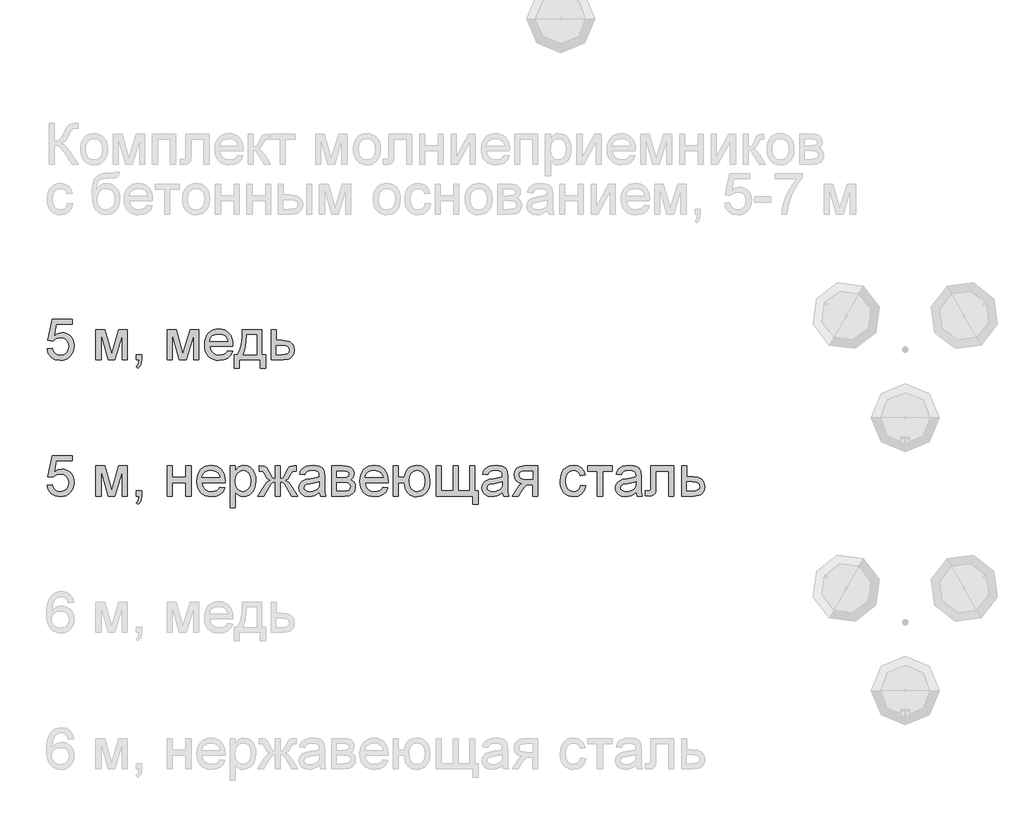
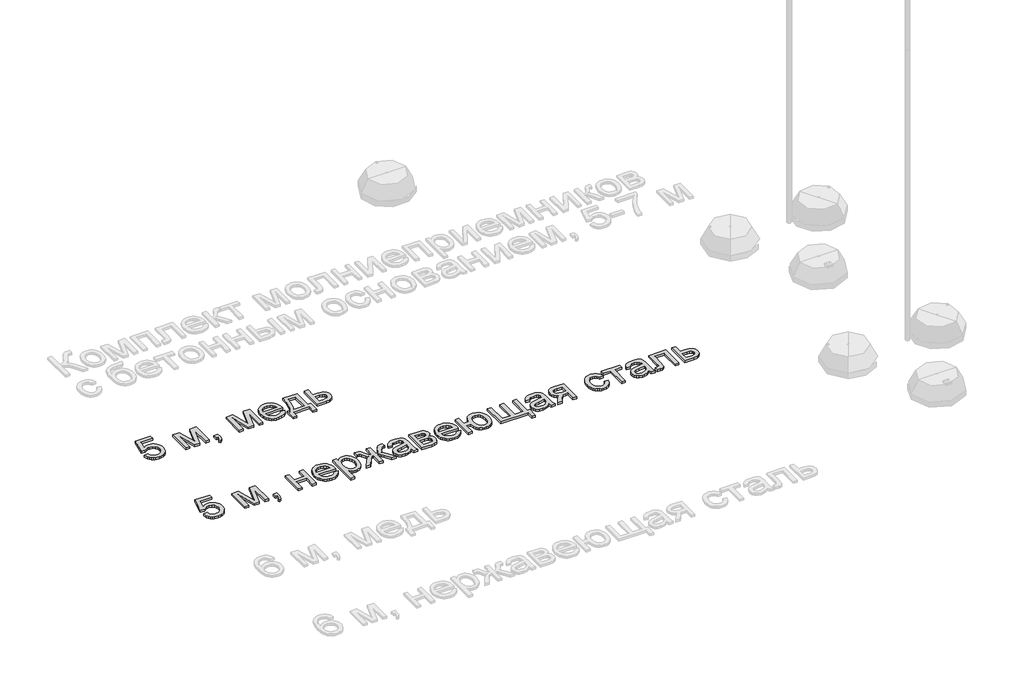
# One storey, part 56 of 124: 2 proxies.
"""IFC4 building model written with IfcOpenShell, lengths in millimetres."""

from ifc_helpers import new_model, si_unit, origin, origin_with_axes, place, context, project, spatial, polyline, outline, extrude, element, save

model = new_model("IFC4")

# Units and contexts
model_context = context("Model", 3, world=origin())
ifc_project = project(units=[si_unit("LENGTHUNIT", "METRE", prefix="MILLI")], contexts=[model_context])

# Site, building, storey
site = spatial("IfcSite", under=ifc_project)
building = spatial("IfcBuilding", under=site)
storey = spatial("IfcBuildingStorey", under=building, Name="Этаж 01", Elevation=0.0)

# Proxies
placement = place(None, origin())
element("IfcBuildingElementProxy", 1, Name="300", ObjectType="300", at=placement, inside=storey, context=model_context, shape_type="SweptSolid", body=[
    extrude(outline(polyline([(10385.6953991, -61427.4094666), (10423.3665154, -61422.7005771), (10430.2826969, -61445.3161227), (10442.3492263, -61461.5121276), (10459.5109214, -61471.2518034), (10481.7125998, -61474.498362), (10508.7151383, -61469.9826105), (10528.948648, -61456.435356), (10541.5853945, -61435.4200971), (10545.7976434, -61408.5003321), (10541.852109, -61383.1532626), (10530.0155058, -61363.7658815), (10510.1958633, -61351.4602287), (10482.301211, -61347.3583445), (10464.0266729, -61348.9954193), (10449.2286196, -61353.906644), (10428.0754049, -61370.9027922), (10390.4042886, -61366.1939026), (10423.3665154, -61210.8005479), (10569.3420911, -61210.8005479), (10569.3420911, -61248.4716642), (10453.8271446, -61248.4716642), (10437.7139132, -61331.4658423), (10464.6244811, -61315.1318817), (10492.8226361, -61309.6872282), (10511.1684513, -61311.3748868), (10528.019746, -61316.4378628), (10543.37652, -61324.876156), (10557.2387734, -61336.6897666), (10568.7143924, -61351.1567261), (10576.9112631, -61367.555066), (10581.8293855, -61385.8847864), (10583.4687597, -61406.1458873), (10577.5642537, -61443.8170036), (10570.1836211, -61460.6108167), (10559.8507356, -61476.0434664), (10544.1973567, -61491.8485966), (10525.9320156, -61503.1379753), (10505.0547124, -61509.9116026), (10481.565447, -61512.1694783), (10444.5657154, -61506.3661398), (10428.8870446, -61499.1119667), (10415.0891705, -61488.9561244), (10403.608953, -61476.4044506), (10394.8832519, -61461.962783), (10385.6953991, -61427.4094666)])), origin_with_axes(), (0.0, 0.0, 1.0), 20.0),
    extrude(outline(polyline([(10743.571004, -61286.1427805), (10808.3918115, -61286.1427805), (10858.3501865, -61463.3147493), (10912.2081106, -61286.1427805), (10974.3065914, -61286.1427805), (10974.3065914, -61507.4605888), (10936.6354751, -61507.4605888), (10936.6354751, -61329.2585503), (10882.4832454, -61507.4605888), (10833.0399052, -61507.4605888), (10781.2421203, -61320.723688), (10781.2421203, -61507.4605888), (10743.571004, -61507.4605888), (10743.571004, -61286.1427805)])), origin_with_axes(), (0.0, 0.0, 1.0), 20.0),
    extrude(outline(polyline([(11040.2310449, -61507.4605888), (11040.2310449, -61469.7894725), (11077.9021612, -61469.7894725), (11077.9021612, -61507.4605888), (11076.209904, -61529.0092766), (11071.1331325, -61545.9778337), (11062.377541, -61558.9916592), (11049.648824, -61568.6761528), (11040.2310449, -61554.5494842), (11048.3980252, -61547.7252731), (11054.0634079, -61538.2891), (11058.9930267, -61507.4605888), (11040.2310449, -61507.4605888)])), origin_with_axes(), (0.0, 0.0, 1.0), 20.0),
    extrude(outline(polyline([(11266.2577427, -61286.1427805), (11331.0785503, -61286.1427805), (11381.0369252, -61463.3147493), (11434.8948493, -61286.1427805), (11496.9933301, -61286.1427805), (11496.9933301, -61507.4605888), (11459.3222138, -61507.4605888), (11459.3222138, -61329.2585503), (11405.1699841, -61507.4605888), (11355.726644, -61507.4605888), (11303.928859, -61320.723688), (11303.928859, -61507.4605888), (11266.2577427, -61507.4605888), (11266.2577427, -61286.1427805)])), origin_with_axes(), (0.0, 0.0, 1.0), 20.0),
    extrude(outline(polyline([(11708.4519009, -61441.5361352), (11745.3872533, -61446.2450248), (11732.0791221, -61474.0752977), (11710.8431339, -61494.8790245), (11682.1575353, -61507.8468649), (11646.5005729, -61512.1694783), (11623.1262707, -61510.3047764), (11602.2995512, -61504.7106709), (11584.0204146, -61495.3871615), (11568.2888608, -61482.3342485), (11555.6383187, -61465.9152152), (11546.6022172, -61446.4933451), (11541.1805563, -61424.0686383), (11539.373336, -61398.6410946), (11541.1989504, -61372.3513275), (11546.6757936, -61349.1793603), (11555.8038656, -61329.1251931), (11568.5831664, -61312.1888257), (11584.2733335, -61298.7335418), (11602.1340043, -61289.1226246), (11622.165179, -61283.3560744), (11644.3668574, -61281.4338909), (11665.8534652, -61283.3514758), (11685.2845323, -61289.1042305), (11702.6600588, -61298.692155), (11717.9800446, -61312.1152493), (11730.4857332, -61329.0148285), (11739.4183679, -61349.0322075), (11744.7779487, -61372.1673865), (11746.5644756, -61398.4203654), (11746.3437464, -61408.5739085), (11577.0444523, -61408.5739085), (11583.5651606, -61436.7720634), (11598.7127018, -61457.5022138), (11620.5740893, -61470.249325), (11647.2363369, -61474.498362), (11667.2859057, -61472.5301933), (11684.1716893, -61466.6256873), (11697.8936877, -61456.4169619), (11708.4519009, -61441.5361352)]), holes=[polyline([(11577.0444523, -61370.9027922), (11708.8933593, -61370.9027922), (11703.7981937, -61351.0003762), (11693.8101975, -61336.763343), (11671.8476424, -61323.5195912), (11644.2197046, -61319.1050072), (11618.8266499, -61322.6274773), (11597.829785, -61333.1948877), (11583.2340668, -61349.666804), (11577.0444523, -61370.9027922)])]), origin_with_axes(), (0.0, 0.0, 1.0), 20.0),
    extrude(outline(polyline([(11817.1978187, -61286.1427805), (11958.4645049, -61286.1427805), (11958.4645049, -61469.7894725), (11986.7178421, -61469.7894725), (11986.7178421, -61568.6761528), (11949.0467258, -61568.6761528), (11949.0467258, -61507.4605888), (11793.653371, -61507.4605888), (11793.653371, -61568.6761528), (11755.9822547, -61568.6761528), (11755.9822547, -61469.7894725), (11779.5267024, -61469.7894725), (11796.6424122, -61438.8597937), (11808.6261682, -61397.9421188), (11815.4779704, -61347.0364477), (11817.1978187, -61286.1427805)]), holes=[polyline([(11850.1600455, -61323.8138968), (11847.0698367, -61369.9371019), (11841.3308776, -61409.6407663), (11832.9431681, -61442.9248898), (11821.9067082, -61469.7894725), (11920.7933886, -61469.7894725), (11920.7933886, -61323.8138968), (11850.1600455, -61323.8138968)])]), origin_with_axes(), (0.0, 0.0, 1.0), 20.0),
    extrude(outline(polyline([(12029.0978479, -61286.1427805), (12066.7689642, -61286.1427805), (12066.7689642, -61366.1939026), (12110.1790397, -61366.1939026), (12147.8133678, -61370.9119892), (12162.9609089, -61376.8095974), (12175.6620348, -61385.066249), (12185.7052133, -61395.3968353), (12192.8789122, -61407.5162477), (12198.6178713, -61437.1215513), (12193.7342378, -61464.0781045), (12179.0833374, -61486.8224088), (12167.8514402, -61495.8516126), (12153.6902826, -61502.3010438), (12116.5801864, -61507.4605888), (12029.0978479, -61507.4605888), (12029.0978479, -61286.1427805)]), holes=[polyline([(12066.7689642, -61469.7894725), (12101.938483, -61469.7894725), (12129.22613, -61467.8121067), (12147.3719094, -61461.8800096), (12157.5530436, -61451.7540577), (12160.946755, -61437.1951277), (12158.4359604, -61424.889475), (12150.9035765, -61414.018562), (12134.762754, -61406.4034047), (12106.4266433, -61403.8650189), (12066.7689642, -61403.8650189), (12066.7689642, -61469.7894725)])]), origin_with_axes(), (0.0, 0.0, 1.0), 20.0),
])
element("IfcBuildingElementProxy", 2, Name="300", ObjectType="300", at=placement, inside=storey, context=model_context, shape_type="SweptSolid", body=[
    extrude(outline(polyline([(10385.6953991, -62427.4094666), (10423.3665154, -62422.7005771), (10430.2826969, -62445.3161227), (10442.3492263, -62461.5121276), (10459.5109214, -62471.2518034), (10481.7125998, -62474.498362), (10508.7151383, -62469.9826105), (10528.948648, -62456.435356), (10541.5853945, -62435.4200971), (10545.7976434, -62408.5003321), (10541.852109, -62383.1532626), (10530.0155058, -62363.7658815), (10510.1958633, -62351.4602287), (10482.301211, -62347.3583445), (10464.0266729, -62348.9954193), (10449.2286196, -62353.906644), (10428.0754049, -62370.9027922), (10390.4042886, -62366.1939026), (10423.3665154, -62210.8005479), (10569.3420911, -62210.8005479), (10569.3420911, -62248.4716642), (10453.8271446, -62248.4716642), (10437.7139132, -62331.4658423), (10464.6244811, -62315.1318817), (10492.8226361, -62309.6872282), (10511.1684513, -62311.3748868), (10528.019746, -62316.4378628), (10543.37652, -62324.876156), (10557.2387734, -62336.6897666), (10568.7143924, -62351.1567261), (10576.9112631, -62367.555066), (10581.8293855, -62385.8847864), (10583.4687597, -62406.1458873), (10577.5642537, -62443.8170036), (10570.1836211, -62460.6108167), (10559.8507356, -62476.0434664), (10544.1973567, -62491.8485966), (10525.9320156, -62503.1379753), (10505.0547124, -62509.9116026), (10481.565447, -62512.1694783), (10444.5657154, -62506.3661398), (10428.8870446, -62499.1119667), (10415.0891705, -62488.9561244), (10403.608953, -62476.4044506), (10394.8832519, -62461.962783), (10385.6953991, -62427.4094666)])), origin_with_axes(), (0.0, 0.0, 1.0), 20.0),
    extrude(outline(polyline([(10743.571004, -62286.1427805), (10808.3918115, -62286.1427805), (10858.3501865, -62463.3147493), (10912.2081106, -62286.1427805), (10974.3065914, -62286.1427805), (10974.3065914, -62507.4605888), (10936.6354751, -62507.4605888), (10936.6354751, -62329.2585503), (10882.4832454, -62507.4605888), (10833.0399052, -62507.4605888), (10781.2421203, -62320.723688), (10781.2421203, -62507.4605888), (10743.571004, -62507.4605888), (10743.571004, -62286.1427805)])), origin_with_axes(), (0.0, 0.0, 1.0), 20.0),
    extrude(outline(polyline([(11040.2310449, -62507.4605888), (11040.2310449, -62469.7894725), (11077.9021612, -62469.7894725), (11077.9021612, -62507.4605888), (11076.209904, -62529.0092766), (11071.1331325, -62545.9778337), (11062.377541, -62558.9916592), (11049.648824, -62568.6761528), (11040.2310449, -62554.5494842), (11048.3980252, -62547.7252731), (11054.0634079, -62538.2891), (11058.9930267, -62507.4605888), (11040.2310449, -62507.4605888)])), origin_with_axes(), (0.0, 0.0, 1.0), 20.0),
    extrude(outline(polyline([(11266.2577427, -62286.1427805), (11303.928859, -62286.1427805), (11303.928859, -62370.9027922), (11402.8155393, -62370.9027922), (11402.8155393, -62286.1427805), (11440.4866556, -62286.1427805), (11440.4866556, -62507.4605888), (11402.8155393, -62507.4605888), (11402.8155393, -62408.5739085), (11303.928859, -62408.5739085), (11303.928859, -62507.4605888), (11266.2577427, -62507.4605888), (11266.2577427, -62286.1427805)])), origin_with_axes(), (0.0, 0.0, 1.0), 20.0),
    extrude(outline(polyline([(11651.9452265, -62441.5361352), (11688.8805788, -62446.2450248), (11675.5724476, -62474.0752977), (11654.3364594, -62494.8790245), (11625.6508609, -62507.8468649), (11589.9938985, -62512.1694783), (11566.6195962, -62510.3047764), (11545.7928768, -62504.7106709), (11527.5137401, -62495.3871615), (11511.7821863, -62482.3342485), (11499.1316442, -62465.9152152), (11490.0955427, -62446.4933451), (11484.6738818, -62424.0686383), (11482.8666615, -62398.6410946), (11484.6922759, -62372.3513275), (11490.1691191, -62349.1793603), (11499.2971911, -62329.1251931), (11512.0764919, -62312.1888257), (11527.766659, -62298.7335418), (11545.6273299, -62289.1226246), (11565.6585045, -62283.3560744), (11587.8601829, -62281.4338909), (11609.3467907, -62283.3514758), (11628.7778578, -62289.1042305), (11646.1533843, -62298.692155), (11661.4733702, -62312.1152493), (11673.9790587, -62329.0148285), (11682.9116934, -62349.0322075), (11688.2712742, -62372.1673865), (11690.0578012, -62398.4203654), (11689.837072, -62408.5739085), (11520.5377778, -62408.5739085), (11527.0584862, -62436.7720634), (11542.2060273, -62457.5022138), (11564.0674149, -62470.249325), (11590.7296625, -62474.498362), (11610.7792312, -62472.5301933), (11627.6650148, -62466.6256873), (11641.3870132, -62456.4169619), (11651.9452265, -62441.5361352)]), holes=[polyline([(11520.5377778, -62370.9027922), (11652.3866849, -62370.9027922), (11647.2915192, -62351.0003762), (11637.3035231, -62336.763343), (11615.340968, -62323.5195912), (11587.7130301, -62319.1050072), (11562.3199754, -62322.6274773), (11541.3231105, -62333.1948877), (11526.7273924, -62349.666804), (11520.5377778, -62370.9027922)])]), origin_with_axes(), (0.0, 0.0, 1.0), 20.0),
    extrude(outline(polyline([(11727.7289175, -62592.2206005), (11727.7289175, -62286.1427805), (11765.4000338, -62286.1427805), (11765.4000338, -62323.0781328), (11777.6872924, -62304.858777), (11791.446079, -62291.8449514), (11807.485734, -62284.036656), (11826.6155978, -62281.4338909), (11852.091426, -62285.0759227), (11874.3666808, -62296.0020179), (11892.5032631, -62313.5499891), (11905.563074, -62337.0576486), (11913.4541427, -62364.8143451), (11916.084499, -62395.1094274), (11913.1138519, -62427.3266932), (11904.2019106, -62456.1410504), (11889.6337836, -62480.0901683), (11869.6945794, -62497.7117159), (11846.4720285, -62508.5550377), (11822.053861, -62512.1694783), (11804.7358161, -62509.7506542), (11789.2755753, -62502.4941818), (11776.0410205, -62491.5404954), (11765.4000338, -62478.0300292), (11765.4000338, -62592.2206005), (11727.7289175, -62592.2206005)]), holes=[polyline([(11765.4000338, -62398.5675182), (11769.4743269, -62432.3390854), (11781.6972062, -62455.9571094), (11799.732621, -62469.8630489), (11821.2445207, -62474.498362), (11843.1059082, -62469.697502), (11861.6011755, -62455.2949219), (11874.2103309, -62430.8123751), (11878.4133827, -62395.771615), (11874.3114985, -62362.1839889), (11862.0058457, -62338.234871), (11843.9980221, -62323.8874732), (11822.789625, -62319.1050072), (11801.4984546, -62324.1909758), (11782.8008522, -62339.4488816), (11769.7502384, -62364.4004779), (11765.4000338, -62398.5675182)])]), origin_with_axes(), (0.0, 0.0, 1.0), 20.0),
    extrude(outline(polyline([(12095.0223015, -62286.1427805), (12095.0223015, -62380.3205712), (12108.3120385, -62378.3799937), (12116.9848566, -62372.5582611), (12137.7701893, -62332.2751827), (12150.7380296, -62307.1672365), (12162.5654358, -62293.6475732), (12176.9312277, -62288.0189786), (12197.8085309, -62286.1427805), (12212.7445399, -62286.1427805), (12212.7445399, -62324.034626), (12202.3702677, -62323.8138968), (12182.9460983, -62327.7134459), (12169.4816173, -62352.1408104), (12153.8466325, -62378.9226197), (12131.5161954, -62392.5342535), (12143.9092201, -62397.8363527), (12156.145895, -62407.194351), (12180.1501952, -62438.0780445), (12222.162319, -62507.4605888), (12178.9729728, -62507.4605888), (12137.6230365, -62439.0345377), (12126.3198622, -62421.0726993), (12116.5433982, -62410.5972594), (12106.6565696, -62405.5480791), (12095.0223015, -62403.8650189), (12095.0223015, -62507.4605888), (12057.3511852, -62507.4605888), (12057.3511852, -62403.8650189), (12045.8088876, -62405.5112909), (12035.9036648, -62410.4501066), (12026.0536244, -62420.8519701), (12014.6768737, -62438.8873849), (11973.3269375, -62507.4605888), (11930.2111676, -62507.4605888), (11972.0761387, -62438.0780445), (11996.2643799, -62407.194351), (12008.5654341, -62397.8363527), (12021.004444, -62392.5342535), (12006.620258, -62385.3237664), (11997.3128435, -62377.5246681), (11977.0057574, -62338.8970586), (11967.0729435, -62326.1683415), (11950.8125594, -62323.5931676), (11939.6289467, -62323.8138968), (11939.6289467, -62286.1427805), (11945.2943294, -62286.1427805), (11978.3301326, -62288.4972252), (11995.4734336, -62298.5036155), (12014.6768737, -62332.2751827), (12035.2414773, -62372.3007437), (12043.9142953, -62378.3156144), (12057.3511852, -62380.3205712), (12057.3511852, -62286.1427805), (12095.0223015, -62286.1427805)])), origin_with_axes(), (0.0, 0.0, 1.0), 20.0),
    extrude(outline(polyline([(12382.2645633, -62479.2072515), (12364.2659367, -62494.6399012), (12345.7338812, -62504.738262), (12326.2453325, -62510.3116742), (12305.3772263, -62512.1694783), (12273.8957246, -62507.6997121), (12250.6731736, -62494.2904133), (12236.353367, -62473.9281449), (12231.5800981, -62448.5994695), (12233.3827199, -62432.9828788), (12238.7905852, -62418.8010279), (12247.1323094, -62406.6609221), (12257.7365079, -62397.1695666), (12284.113647, -62384.8087316), (12316.7079918, -62379.1433489), (12355.2252367, -62373.1836605), (12382.0438341, -62366.1939026), (12382.2645633, -62357.8061931), (12379.6709952, -62340.993986), (12371.890291, -62329.9943143), (12354.4894727, -62321.827334), (12330.2460492, -62319.1050072), (12307.8052475, -62320.9168261), (12292.1334745, -62326.3522825), (12281.4465025, -62336.4046581), (12273.9601039, -62352.067234), (12236.2889876, -62347.3583445), (12242.8280901, -62326.7569527), (12252.58616, -62310.570145), (12266.4737053, -62298.1909158), (12285.401234, -62289.01226), (12308.5502085, -62283.3284832), (12335.1020915, -62281.4338909), (12360.5687226, -62283.107754), (12380.7562471, -62288.1293432), (12395.9773647, -62295.6801212), (12406.544775, -62304.9415504), (12413.552927, -62316.3918775), (12418.0962696, -62330.5093491), (12419.9356796, -62363.4715759), (12419.9356796, -62410.339742), (12421.848666, -62475.785949), (12429.3534587, -62507.4605888), (12391.6823424, -62507.4605888), (12382.2645633, -62479.2072515)]), holes=[polyline([(12382.2645633, -62403.8650189), (12321.4904577, -62415.4165136), (12289.0800539, -62421.5233547), (12274.4015623, -62431.4561686), (12269.2512144, -62445.9507192), (12272.0563146, -62457.1527259), (12280.4716152, -62466.3313817), (12294.3131753, -62472.4566169), (12313.3970538, -62474.498362), (12333.6305635, -62472.2450848), (12351.5096285, -62465.4852531), (12366.0041791, -62455.5248481), (12376.0841458, -62443.6698508), (12380.553912, -62431.4561686), (12382.0438341, -62414.5335968), (12382.2645633, -62403.8650189)])]), origin_with_axes(), (0.0, 0.0, 1.0), 20.0),
    extrude(outline(polyline([(12471.7334645, -62286.1427805), (12554.7276426, -62286.1427805), (12581.4082843, -62287.4027763), (12600.2346454, -62291.1827638), (12614.0854026, -62298.3196745), (12625.8392323, -62309.65044), (12633.8682569, -62324.411705), (12636.5445984, -62341.8401145), (12634.9259176, -62355.8840097), (12630.0698753, -62367.9965244), (12621.9580773, -62378.2328409), (12610.5721295, -62386.6481416), (12624.5148571, -62394.474831), (12635.8824108, -62407.0655923), (12643.4423858, -62423.427144), (12645.9623774, -62442.5662048), (12639.5796248, -62471.2793945), (12624.4044925, -62491.4945102), (12600.3817982, -62503.4690691), (12567.4563597, -62507.4605888), (12471.7334645, -62507.4605888), (12471.7334645, -62286.1427805)]), holes=[polyline([(12509.4045808, -62370.9027922), (12546.6342387, -62370.9027922), (12577.3523853, -62368.9898058), (12592.2883943, -62361.3378603), (12597.2272101, -62355.01029), (12598.8734821, -62347.5054973), (12595.9856084, -62336.2667023), (12587.3219874, -62329.0378211), (12571.6686085, -62325.1198779), (12547.8114611, -62323.8138968), (12509.4045808, -62323.8138968), (12509.4045808, -62370.9027922)]), polyline([(12509.4045808, -62469.7894725), (12555.6105594, -62469.7894725), (12580.792082, -62468.0880182), (12596.5926137, -62462.9836556), (12605.0722937, -62453.7038322), (12608.2912611, -62439.4759961), (12606.6817774, -62430.0490199), (12601.8533262, -62421.3394137), (12594.440504, -62414.5243997), (12585.0779072, -62410.7812004), (12551.9317395, -62408.5739085), (12509.4045808, -62408.5739085), (12509.4045808, -62469.7894725)])]), origin_with_axes(), (0.0, 0.0, 1.0), 20.0),
    extrude(outline(polyline([(12848.0031692, -62441.5361352), (12884.9385215, -62446.2450248), (12871.6303903, -62474.0752977), (12850.3944022, -62494.8790245), (12821.7088036, -62507.8468649), (12786.0518412, -62512.1694783), (12762.6775389, -62510.3047764), (12741.8508195, -62504.7106709), (12723.5716829, -62495.3871615), (12707.840129, -62482.3342485), (12695.1895869, -62465.9152152), (12686.1534854, -62446.4933451), (12680.7318245, -62424.0686383), (12678.9246042, -62398.6410946), (12680.7502186, -62372.3513275), (12686.2270618, -62349.1793603), (12695.3551338, -62329.1251931), (12708.1344346, -62312.1888257), (12723.8246017, -62298.7335418), (12741.6852726, -62289.1226246), (12761.7164472, -62283.3560744), (12783.9181256, -62281.4338909), (12805.4047334, -62283.3514758), (12824.8358006, -62289.1042305), (12842.211327, -62298.692155), (12857.5313129, -62312.1152493), (12870.0370014, -62329.0148285), (12878.9696361, -62349.0322075), (12884.329217, -62372.1673865), (12886.1157439, -62398.4203654), (12885.8950147, -62408.5739085), (12716.5957205, -62408.5739085), (12723.1164289, -62436.7720634), (12738.26397, -62457.5022138), (12760.1253576, -62470.249325), (12786.7876052, -62474.498362), (12806.8371739, -62472.5301933), (12823.7229575, -62466.6256873), (12837.4449559, -62456.4169619), (12848.0031692, -62441.5361352)]), holes=[polyline([(12716.5957205, -62370.9027922), (12848.4446276, -62370.9027922), (12843.349462, -62351.0003762), (12833.3614658, -62336.763343), (12811.3989107, -62323.5195912), (12783.7709728, -62319.1050072), (12758.3779181, -62322.6274773), (12737.3810532, -62333.1948877), (12722.7853351, -62349.666804), (12716.5957205, -62370.9027922)])]), origin_with_axes(), (0.0, 0.0, 1.0), 20.0),
    extrude(outline(polyline([(12923.7868602, -62286.1427805), (12961.4579765, -62286.1427805), (12961.4579765, -62370.9027922), (13003.8379824, -62370.9027922), (13013.6144464, -62332.4959119), (13022.1378124, -62317.1552327), (13033.084601, -62304.3897274), (13046.1467111, -62294.346549), (13061.0160415, -62287.1728501), (13096.1763631, -62281.4338909), (13125.7264844, -62284.8092082), (13148.3052419, -62294.9351602), (13165.7244543, -62310.9840122), (13179.7959406, -62332.1280299), (13189.0941581, -62359.9399087), (13192.1935639, -62395.9923442), (13190.5909779, -62422.8477299), (13185.7832201, -62446.2450248), (13177.7702904, -62466.1842289), (13166.5521888, -62482.6653423), (13152.5887678, -62495.5734018), (13136.33988, -62504.7934443), (13117.8055252, -62510.3254698), (13096.9857035, -62512.1694783), (13077.5822275, -62510.4404329), (13060.2067011, -62505.2532968), (13044.8591241, -62496.6080699), (13031.5394966, -62484.5047523), (13020.5789124, -62469.3848023), (13012.3084653, -62451.6896783), (13003.8379824, -62408.5739085), (12961.4579765, -62408.5739085), (12961.4579765, -62507.4605888), (12923.7868602, -62507.4605888), (12923.7868602, -62286.1427805)]), holes=[polyline([(13098.6043843, -62319.1050072), (13074.5908871, -62323.9794437), (13056.5554723, -62338.602753), (13045.2706921, -62362.018442), (13041.5090987, -62393.2700175), (13045.2982832, -62429.6811379), (13056.6658369, -62454.8902517), (13074.3793549, -62469.5963344), (13097.2064327, -62474.498362), (13120.0978899, -62469.9642164), (13138.4460044, -62456.3617796), (13150.5033368, -62432.6609821), (13154.5224476, -62397.8317542), (13151.0459627, -62363.3888024), (13140.6165082, -62338.786694), (13123.1605075, -62324.0254289), (13098.6043843, -62319.1050072)])]), origin_with_axes(), (0.0, 0.0, 1.0), 20.0),
    extrude(outline(polyline([(13239.2824593, -62286.1427805), (13276.9535756, -62286.1427805), (13276.9535756, -62469.7894725), (13361.7135873, -62469.7894725), (13361.7135873, -62286.1427805), (13399.3847036, -62286.1427805), (13399.3847036, -62469.7894725), (13484.1447153, -62469.7894725), (13484.1447153, -62286.1427805), (13521.8158316, -62286.1427805), (13521.8158316, -62469.7894725), (13545.3602793, -62469.7894725), (13545.3602793, -62568.6761528), (13507.6891629, -62568.6761528), (13507.6891629, -62507.4605888), (13239.2824593, -62507.4605888), (13239.2824593, -62286.1427805)])), origin_with_axes(), (0.0, 0.0, 1.0), 20.0),
    extrude(outline(polyline([(13724.2980817, -62479.2072515), (13706.2994551, -62494.6399012), (13687.7673996, -62504.738262), (13668.2788509, -62510.3116742), (13647.4107447, -62512.1694783), (13615.929243, -62507.6997121), (13592.706692, -62494.2904133), (13578.3868854, -62473.9281449), (13573.6136165, -62448.5994695), (13575.4162383, -62432.9828788), (13580.8241036, -62418.8010279), (13589.1658278, -62406.6609221), (13599.7700263, -62397.1695666), (13626.1471654, -62384.8087316), (13658.7415102, -62379.1433489), (13697.2587551, -62373.1836605), (13724.0773525, -62366.1939026), (13724.2980817, -62357.8061931), (13721.7045136, -62340.993986), (13713.9238094, -62329.9943143), (13696.5229911, -62321.827334), (13672.2795676, -62319.1050072), (13649.8387659, -62320.9168261), (13634.1669929, -62326.3522825), (13623.4800209, -62336.4046581), (13615.9936223, -62352.067234), (13578.322506, -62347.3583445), (13584.8616085, -62326.7569527), (13594.6196784, -62310.570145), (13608.5072237, -62298.1909158), (13627.4347524, -62289.01226), (13650.5837269, -62283.3284832), (13677.1356099, -62281.4338909), (13702.602241, -62283.107754), (13722.7897655, -62288.1293432), (13738.0108831, -62295.6801212), (13748.5782934, -62304.9415504), (13755.5864454, -62316.3918775), (13760.129788, -62330.5093491), (13761.969198, -62363.4715759), (13761.969198, -62410.339742), (13763.8821844, -62475.785949), (13771.3869771, -62507.4605888), (13733.7158608, -62507.4605888), (13724.2980817, -62479.2072515)]), holes=[polyline([(13724.2980817, -62403.8650189), (13663.5239761, -62415.4165136), (13631.1135723, -62421.5233547), (13616.4350807, -62431.4561686), (13611.2847328, -62445.9507192), (13614.089833, -62457.1527259), (13622.5051336, -62466.3313817), (13636.3466937, -62472.4566169), (13655.4305722, -62474.498362), (13675.6640819, -62472.2450848), (13693.5431469, -62465.4852531), (13708.0376975, -62455.5248481), (13718.1176642, -62443.6698508), (13722.5874304, -62431.4561686), (13724.0773525, -62414.5335968), (13724.2980817, -62403.8650189)])]), origin_with_axes(), (0.0, 0.0, 1.0), 20.0),
    extrude(outline(polyline([(13983.2870063, -62286.1427805), (13983.2870063, -62507.4605888), (13945.61589, -62507.4605888), (13945.61589, -62422.7005771), (13925.0880747, -62422.7005771), (13897.129043, -62427.483043), (13885.9638245, -62437.9124976), (13870.8622686, -62459.6359294), (13840.8430978, -62507.4605888), (13797.2858696, -62507.4605888), (13835.1041387, -62446.9807888), (13851.8059812, -62425.275751), (13867.1834486, -62415.6372428), (13841.431709, -62407.746174), (13823.3319148, -62392.7549827), (13812.6265487, -62372.8157785), (13809.0580934, -62350.0806712), (13813.9325298, -62324.2921434), (13828.5558391, -62303.8746926), (13852.4129865, -62290.5757585), (13884.9889372, -62286.1427805), (13983.2870063, -62286.1427805)]), holes=[polyline([(13945.61589, -62323.8138968), (13895.9518207, -62323.8138968), (13870.3012485, -62325.9935976), (13855.7423186, -62332.5327001), (13848.9824869, -62341.9964644), (13846.7292097, -62352.9501508), (13850.0493447, -62367.3067457), (13860.0097497, -62377.2671507), (13878.4130465, -62383.0888833), (13907.0618569, -62385.0294608), (13945.61589, -62385.0294608), (13945.61589, -62323.8138968)])]), origin_with_axes(), (0.0, 0.0, 1.0), 20.0),
    extrude(outline(polyline([(14298.7826054, -62427.4094666), (14336.4537217, -62432.1183562), (14325.9506907, -62465.6232089), (14306.2138217, -62490.9426872), (14279.1009186, -62506.8627805), (14246.4697857, -62512.1694783), (14225.3418628, -62510.318572), (14206.3982393, -62504.7658532), (14189.6389152, -62495.5113217), (14175.0638904, -62482.5549777), (14163.2663747, -62466.1405429), (14154.8395777, -62446.5117392), (14149.7834995, -62423.6685666), (14148.0981402, -62397.611025), (14150.9768168, -62364.0877782), (14159.6128466, -62335.0342976), (14174.1441854, -62311.5726234), (14194.7087889, -62294.8247956), (14219.3108974, -62284.7816171), (14245.9547509, -62281.4338909), (14277.7857405, -62286.0324159), (14303.2339775, -62299.8279907), (14321.4901215, -62322.0848514), (14331.7448321, -62352.067234), (14294.0737158, -62356.7761235), (14287.2403078, -62340.3409954), (14276.5993211, -62328.5595745), (14262.7393669, -62321.4686491), (14246.2490565, -62319.1050072), (14221.9044654, -62323.7587145), (14202.5814636, -62337.7198362), (14189.9723083, -62361.7425305), (14185.7692565, -62396.5809554), (14189.8803378, -62431.8884299), (14202.2135816, -62455.9938976), (14221.1870955, -62469.8722459), (14245.2189869, -62474.498362), (14264.7259297, -62471.6104883), (14280.7195994, -62462.9468674), (14292.3538675, -62448.2867698), (14298.7826054, -62427.4094666)])), origin_with_axes(), (0.0, 0.0, 1.0), 20.0),
    extrude(outline(polyline([(14350.5803903, -62286.1427805), (14529.5181928, -62286.1427805), (14529.5181928, -62323.8138968), (14458.8848497, -62323.8138968), (14458.8848497, -62507.4605888), (14421.2137334, -62507.4605888), (14421.2137334, -62323.8138968), (14350.5803903, -62323.8138968), (14350.5803903, -62286.1427805)])), origin_with_axes(), (0.0, 0.0, 1.0), 20.0),
    extrude(outline(polyline([(14703.7471057, -62479.2072515), (14685.7484791, -62494.6399012), (14667.2164235, -62504.738262), (14647.7278749, -62510.3116742), (14626.8597687, -62512.1694783), (14595.3782669, -62507.6997121), (14572.155716, -62494.2904133), (14557.8359093, -62473.9281449), (14553.0626404, -62448.5994695), (14554.8652622, -62432.9828788), (14560.2731275, -62418.8010279), (14568.6148518, -62406.6609221), (14579.2190503, -62397.1695666), (14605.5961894, -62384.8087316), (14638.1905341, -62379.1433489), (14676.707779, -62373.1836605), (14703.5263765, -62366.1939026), (14703.7471057, -62357.8061931), (14701.1535376, -62340.993986), (14693.3728334, -62329.9943143), (14675.972015, -62321.827334), (14651.7285915, -62319.1050072), (14629.2877898, -62320.9168261), (14613.6160168, -62326.3522825), (14602.9290449, -62336.4046581), (14595.4426463, -62352.067234), (14557.77153, -62347.3583445), (14564.3106324, -62326.7569527), (14574.0687024, -62310.570145), (14587.9562477, -62298.1909158), (14606.8837763, -62289.01226), (14630.0327509, -62283.3284832), (14656.5846339, -62281.4338909), (14682.051265, -62283.107754), (14702.2387895, -62288.1293432), (14717.459907, -62295.6801212), (14728.0273173, -62304.9415504), (14735.0354694, -62316.3918775), (14739.578812, -62330.5093491), (14741.418222, -62363.4715759), (14741.418222, -62410.339742), (14743.3312083, -62475.785949), (14750.836001, -62507.4605888), (14713.1648847, -62507.4605888), (14703.7471057, -62479.2072515)]), holes=[polyline([(14703.7471057, -62403.8650189), (14642.9730001, -62415.4165136), (14610.5625963, -62421.5233547), (14595.8841047, -62431.4561686), (14590.7337567, -62445.9507192), (14593.538857, -62457.1527259), (14601.9541576, -62466.3313817), (14615.7957177, -62472.4566169), (14634.8795962, -62474.498362), (14655.1131059, -62472.2450848), (14672.9921709, -62465.4852531), (14687.4867215, -62455.5248481), (14697.5666881, -62443.6698508), (14702.0364544, -62431.4561686), (14703.5263765, -62414.5335968), (14703.7471057, -62403.8650189)])]), origin_with_axes(), (0.0, 0.0, 1.0), 20.0),
    extrude(outline(polyline([(14812.051565, -62286.1427805), (14981.5715884, -62286.1427805), (14981.5715884, -62507.2398596), (14943.9004721, -62507.2398596), (14943.9004721, -62323.8138968), (14849.7226814, -62323.8138968), (14849.7226814, -62429.3960294), (14847.1842956, -62478.1036056), (14842.4294208, -62489.1308684), (14833.241568, -62498.6682091), (14819.2988404, -62505.2624938), (14800.2793412, -62507.4605888), (14769.6715592, -62505.5476024), (14769.6715592, -62469.7894725), (14786.5205546, -62469.7894725), (14803.553491, -62467.4718159), (14810.3593079, -62460.114176), (14812.051565, -62427.2623138), (14812.051565, -62286.1427805)])), origin_with_axes(), (0.0, 0.0, 1.0), 20.0),
    extrude(outline(polyline([(15038.0782629, -62286.1427805), (15075.7493792, -62286.1427805), (15075.7493792, -62366.1939026), (15119.1594546, -62366.1939026), (15156.7937827, -62370.9119892), (15171.9413239, -62376.8095974), (15184.6424498, -62385.066249), (15194.6856282, -62395.3968353), (15201.8593271, -62407.5162477), (15207.5982863, -62437.1215513), (15202.7146528, -62464.0781045), (15188.0637523, -62486.8224088), (15176.8318552, -62495.8516126), (15162.6706976, -62502.3010438), (15125.5606013, -62507.4605888), (15038.0782629, -62507.4605888), (15038.0782629, -62286.1427805)]), holes=[polyline([(15075.7493792, -62469.7894725), (15110.9188979, -62469.7894725), (15138.2065449, -62467.8121067), (15156.3523243, -62461.8800096), (15166.5334585, -62451.7540577), (15169.92717, -62437.1951277), (15167.4163753, -62424.889475), (15159.8839915, -62414.018562), (15143.7431689, -62406.4034047), (15115.4070583, -62403.8650189), (15075.7493792, -62403.8650189), (15075.7493792, -62469.7894725)])]), origin_with_axes(), (0.0, 0.0, 1.0), 20.0),
])

save(model, "model.ifc")
